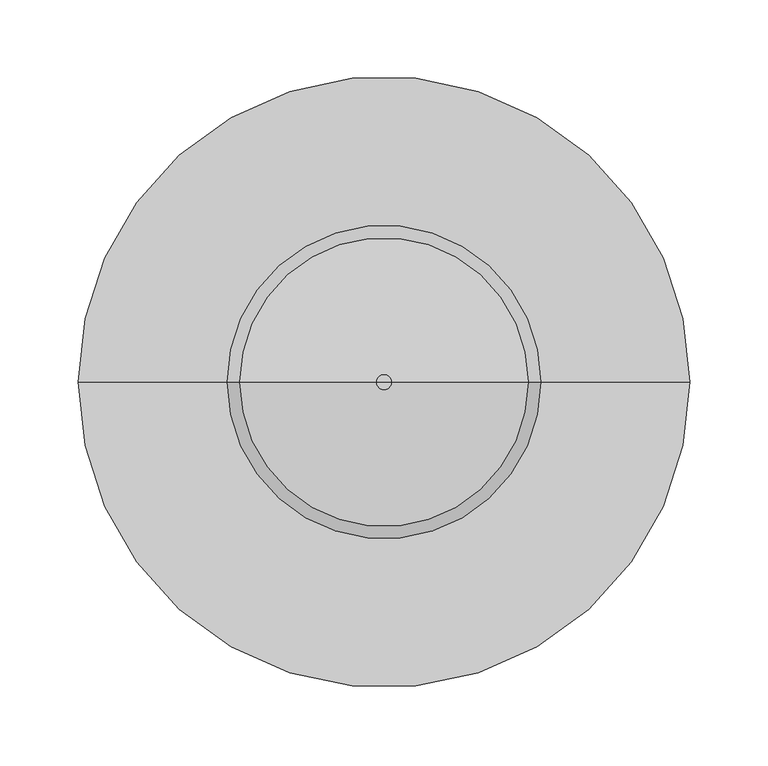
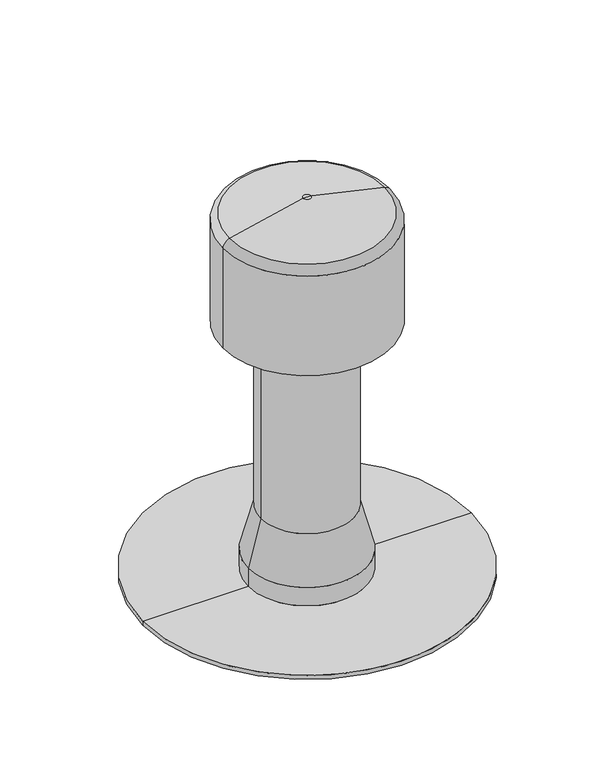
"""IFC4 building model written with IfcOpenShell, lengths in millimetres: flow terminal geometry, BIMLIB_Аэратор_Fachmann_А110Y : А110Y."""

from ifc_helpers import new_model, si_unit, point, frame, origin, place, context, project, spatial, polyline, circle_curve, ellipse_curve, trimmed, source, transform, mapped, element, save
from ifc_brep_helpers import plane_surface, cylinder_surface, revolved_surface, advanced_brep


def flow_terminal_b570f936(model_context):
    return source(origin(), model_context, "Body", "AdvancedBrep", [
        advanced_brep(
        [(-195.0, 0.0, 0.0), (195.0, 0.0, 0.0), (0.0, 0.0, 0.0), (-195.0, 0.0, 5.0), (195.0, 0.0, 5.0), (-70.0, 0.0, 5.0), (70.0, 0.0, 5.0), (-70.0, 0.0, 28.0), (70.0, 0.0, 28.0), (-55.0, 0.0, 85.0), (55.0, 0.0, 85.0), (-55.0, 0.0, 315.0), (55.0, 0.0, 315.0), (-100.0, 0.0, 315.0), (100.0, 0.0, 315.0), (-100.0, 0.0, 440.0), (100.0, 0.0, 440.0), (-92.2169769, 0.0, 449.7511545), (92.2169769, 0.0, 449.7511545), (-5.0, 0.0, 469.5803989), (5.0, 0.0, 469.5803989), (0.0, 0.0, 470.0)],
        [
            (0, 1, circle_curve(frame((0.0, 0.0, 0.0), z_axis=(0.0, 0.0, -1.0), x_axis=(1.0, 0.0, 0.0)), 195.0)),
            (1, 2),
            (2, 0),
            (1, 0, circle_curve(frame((0.0, 0.0, 0.0), z_axis=(0.0, 0.0, -1.0), x_axis=(1.0, 0.0, 0.0)), 195.0)),
            (3, 4, circle_curve(frame((0.0, 0.0, 5.0), z_axis=(0.0, 0.0, -1.0), x_axis=(1.0, 0.0, 0.0)), 195.0)),
            (4, 1),
            (0, 3),
            (4, 3, circle_curve(frame((0.0, 0.0, 5.0), z_axis=(0.0, 0.0, -1.0), x_axis=(1.0, 0.0, 0.0)), 195.0)),
            (5, 6, circle_curve(frame((0.0, 0.0, 5.0), z_axis=(0.0, 0.0, -1.0), x_axis=(1.0, 0.0, 0.0)), 70.0)),
            (6, 4),
            (3, 5),
            (6, 5, circle_curve(frame((0.0, 0.0, 5.0), z_axis=(0.0, 0.0, -1.0), x_axis=(1.0, 0.0, 0.0)), 70.0)),
            (7, 8, circle_curve(frame((0.0, 0.0, 28.0), z_axis=(0.0, 0.0, -1.0), x_axis=(1.0, 0.0, 0.0)), 70.0)),
            (8, 6),
            (5, 7),
            (8, 7, circle_curve(frame((0.0, 0.0, 28.0), z_axis=(0.0, 0.0, -1.0), x_axis=(1.0, 0.0, 0.0)), 70.0)),
            (9, 10, circle_curve(frame((0.0, 0.0, 85.0), z_axis=(0.0, 0.0, -1.0), x_axis=(1.0, 0.0, 0.0)), 55.0)),
            (10, 8),
            (7, 9),
            (10, 9, circle_curve(frame((0.0, 0.0, 85.0), z_axis=(0.0, 0.0, -1.0), x_axis=(1.0, 0.0, 0.0)), 55.0)),
            (11, 12, circle_curve(frame((0.0, 0.0, 315.0), z_axis=(0.0, 0.0, -1.0), x_axis=(1.0, 0.0, 0.0)), 55.0)),
            (12, 10),
            (9, 11),
            (12, 11, circle_curve(frame((0.0, 0.0, 315.0), z_axis=(0.0, 0.0, -1.0), x_axis=(1.0, 0.0, 0.0)), 55.0)),
            (13, 14, circle_curve(frame((0.0, 0.0, 315.0), z_axis=(0.0, 0.0, -1.0), x_axis=(1.0, 0.0, 0.0)), 100.0)),
            (14, 12),
            (11, 13),
            (14, 13, circle_curve(frame((0.0, 0.0, 315.0), z_axis=(0.0, 0.0, -1.0), x_axis=(1.0, 0.0, 0.0)), 100.0)),
            (15, 16, circle_curve(frame((0.0, 0.0, 440.0), z_axis=(0.0, 0.0, -1.0), x_axis=(1.0, 0.0, 0.0)), 100.0)),
            (16, 14),
            (13, 15),
            (16, 15, circle_curve(frame((0.0, 0.0, 440.0), z_axis=(0.0, 0.0, -1.0), x_axis=(1.0, 0.0, 0.0)), 100.0)),
            (17, 18, circle_curve(frame((0.0, 0.0, 449.7511545), z_axis=(0.0, 0.0, -1.0), x_axis=(1.0, 0.0, 0.0)), 92.2169769)),
            (18, 16, circle_curve(frame((90.0, 0.0, 440.0), z_axis=(0.0, 1.0, 0.0), x_axis=(1.0, 0.0, 0.0)), 10.0)),
            (15, 17, circle_curve(frame((-90.0, 0.0, 440.0), z_axis=(0.0, 1.0, 0.0), x_axis=(-1.0, 0.0, 0.0)), 10.0)),
            (18, 17, circle_curve(frame((0.0, 0.0, 449.7511545), z_axis=(0.0, 0.0, -1.0), x_axis=(1.0, 0.0, 0.0)), 92.2169769)),
            (19, 20, circle_curve(frame((0.0, 0.0, 469.5803989), z_axis=(0.0, 0.0, -1.0), x_axis=(1.0, 0.0, 0.0)), 5.0)),
            (20, 18),
            (17, 19),
            (20, 19, circle_curve(frame((0.0, 0.0, 469.5803989), z_axis=(0.0, 0.0, -1.0), x_axis=(1.0, 0.0, 0.0)), 5.0)),
            (21, 20, circle_curve(frame((0.0, 0.0, 440.0), z_axis=(0.0, 1.0, 0.0), x_axis=(1.0, 0.0, 0.0)), 30.0)),
            (19, 21, circle_curve(frame((0.0, 0.0, 440.0), z_axis=(0.0, 1.0, 0.0), x_axis=(-1.0, 0.0, 0.0)), 30.0)),
        ],
        [
            plane_surface(frame((0.0, 0.0, 0.0), z_axis=(0.0, 0.0, -1.0), x_axis=(1.0, 0.0, 0.0))),
            cylinder_surface(frame((0.0, 0.0, 570.0), z_axis=(0.0, 0.0, 1.0), x_axis=(1.0, 0.0, 0.0)), 195.0),
            plane_surface(frame((0.0, 0.0, 5.0), z_axis=(0.0, 0.0, 1.0), x_axis=(1.0, 0.0, 0.0))),
            cylinder_surface(frame((0.0, 0.0, 570.0), z_axis=(0.0, 0.0, 1.0), x_axis=(1.0, 0.0, 0.0)), 70.0),
            revolved_surface(polyline([(70.0, 0.0, 28.0), (55.0, 0.0, 85.0)]), (0.0, 0.0, 570.0), (0.0, 0.0, 1.0)),
            cylinder_surface(frame((0.0, 0.0, 570.0), z_axis=(0.0, 0.0, 1.0), x_axis=(1.0, 0.0, 0.0)), 55.0),
            plane_surface(frame((0.0, 0.0, 315.0), z_axis=(0.0, 0.0, -1.0), x_axis=(1.0, 0.0, 0.0))),
            cylinder_surface(frame((0.0, 0.0, 570.0), z_axis=(0.0, 0.0, 1.0), x_axis=(1.0, 0.0, 0.0)), 100.0),
            revolved_surface(trimmed(ellipse_curve(frame((90.0, 0.0, 440.0), z_axis=(0.0, -1.0, 0.0), x_axis=(1.0, 0.0, 0.0)), 10.0, 10.0), [point((100.0, 0.0, 440.0))], [point((92.2169769, 0.0, 449.7511545))], True, "CARTESIAN"), (0.0, 0.0, 570.0), (0.0, 0.0, 1.0)),
            revolved_surface(polyline([(92.2169769, 0.0, 449.7511545), (5.0, 0.0, 469.5803989)]), (0.0, 0.0, 570.0), (0.0, 0.0, 1.0)),
            revolved_surface(trimmed(ellipse_curve(frame((0.0, 0.0, 440.0), z_axis=(0.0, -1.0, 0.0), x_axis=(1.0, 0.0, 0.0)), 30.0, 30.0), [point((5.0, 0.0, 469.5803989))], [point((0.0, 0.0, 470.0))], True, "CARTESIAN"), (0.0, 0.0, 570.0), (0.0, 0.0, 1.0)),
        ],
        [
            (0, [[1, 2, 3]]),
            (0, [[4, -3, -2]]),
            (1, [[5, 6, -1, 7]]),
            (1, [[8, -7, -4, -6]]),
            (2, [[9, 10, -5, 11]]),
            (2, [[12, -11, -8, -10]]),
            (3, [[13, 14, -9, 15]]),
            (3, [[16, -15, -12, -14]]),
            (4, [[17, 18, -13, 19]]),
            (4, [[20, -19, -16, -18]]),
            (5, [[21, 22, -17, 23]]),
            (5, [[24, -23, -20, -22]]),
            (6, [[25, 26, -21, 27]]),
            (6, [[28, -27, -24, -26]]),
            (7, [[29, 30, -25, 31]]),
            (7, [[32, -31, -28, -30]]),
            (8, [[33, 34, -29, 35]]),
            (8, [[36, -35, -32, -34]]),
            (9, [[37, 38, -33, 39]]),
            (9, [[40, -39, -36, -38]]),
            (10, [[41, -37, 42]]),
            (10, [[-42, -40, -41]]),
        ],
    ),
    ])


if __name__ == "__main__":
    model = new_model("IFC4")
    model_context = context("Model", 3, world=origin())
    ifc_project = project(units=[si_unit("LENGTHUNIT", "METRE", prefix="MILLI")], contexts=[model_context])
    site = spatial("IfcSite", under=ifc_project)
    building = spatial("IfcBuilding", under=site)
    placement = place(None, origin())
    flow_terminal_shape = flow_terminal_b570f936(model_context)
    element("IfcFlowTerminal", 1, ObjectType="BIMLIB_Аэратор_Fachmann_А110Y : А110Y", at=placement, inside=building, context=model_context, shape_type="MappedRepresentation", body=[
        mapped(flow_terminal_shape, transform((0.0, 0.0, 0.0), x_axis=(1.0, 0.0, 0.0), y_axis=(0.0, 1.0, 0.0), z_axis=(0.0, 0.0, 1.0))),
    ])
    save(model, "model.ifc")
